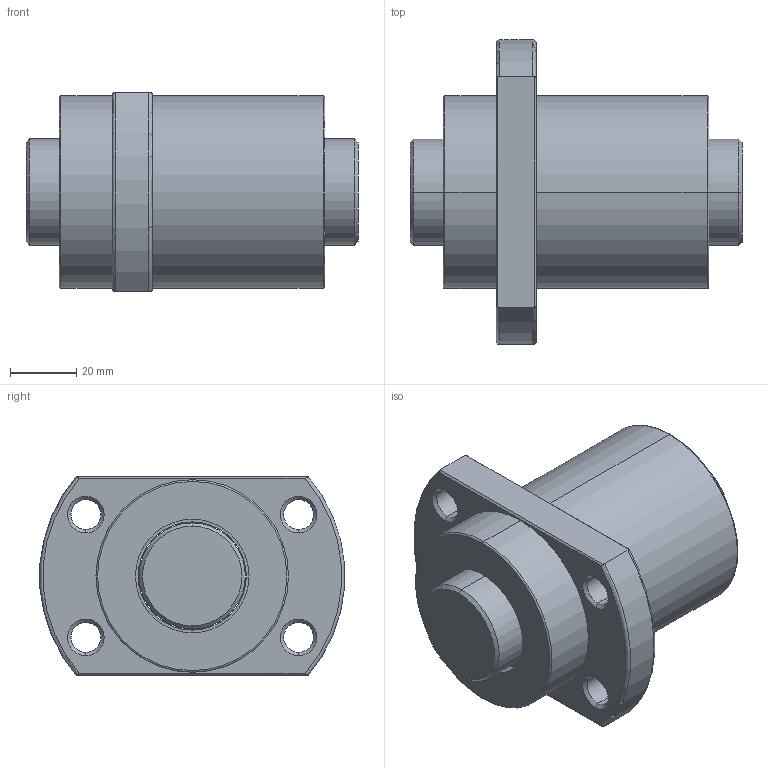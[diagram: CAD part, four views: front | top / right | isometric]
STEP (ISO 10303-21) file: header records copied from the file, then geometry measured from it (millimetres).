
FILE_DESCRIPTION (( 'STEP AP203' ), '1' );
FILE_NAME ('SFTER03232A2D-C.STEP', '2020-06-18T01:57:30', ( '' ), ( '' ), 'SwSTEP 2.0', 'SolidWorks 2013', '' );
FILE_SCHEMA (( 'CONFIG_CONTROL_DESIGN' ));
Length unit declared in the file: millimetre
Products named in the file (1): SFTER03232A2D-C
Bounding box: 100 x 91.86 x 60 mm (x, y, z)
Volume: 243829.2 mm3; surface area: 45358.9 mm2
Topology: 2 solids, 2 shells, 75 faces, 170 edges, 106 vertices
Faces by surface type: cylinder 30, cone 20, plane 17, torus 8
Entity records: 2513 total; most frequent: CARTESIAN_POINT 694, DIRECTION 388, ORIENTED_EDGE 340, EDGE_CURVE 170, AXIS2_PLACEMENT_3D 164, VERTEX_POINT 106, EDGE_LOOP 94, CIRCLE 88
